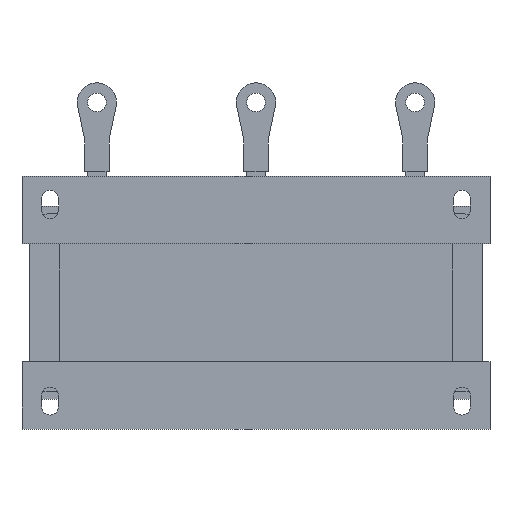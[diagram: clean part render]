
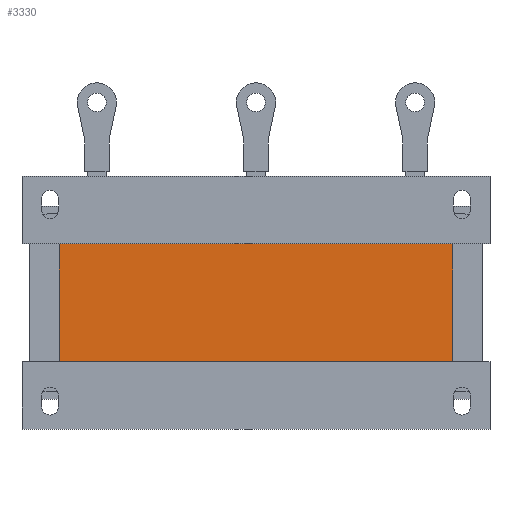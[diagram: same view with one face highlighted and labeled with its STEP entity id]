
A CAD part, front view. The second image highlights one B-rep face of the part: STEP entity #3330.
In plain terms, the highlighted planar face has unit normal (0, -1, 0).
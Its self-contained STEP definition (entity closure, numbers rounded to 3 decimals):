
#184=FACE_OUTER_BOUND('',#380,.T.);
#380=EDGE_LOOP('',(#2297,#2298,#2299,#2300));
#633=LINE('',#4901,#1047);
#634=LINE('',#4903,#1048);
#635=LINE('',#4905,#1049);
#636=LINE('',#4906,#1050);
#1047=VECTOR('',#3954,10.);
#1048=VECTOR('',#3955,10.);
#1049=VECTOR('',#3956,10.);
#1050=VECTOR('',#3957,10.);
#1455=VERTEX_POINT('',#4899);
#1456=VERTEX_POINT('',#4900);
#1457=VERTEX_POINT('',#4902);
#1458=VERTEX_POINT('',#4904);
#1789=EDGE_CURVE('',#1455,#1456,#633,.T.);
#1790=EDGE_CURVE('',#1457,#1455,#634,.T.);
#1791=EDGE_CURVE('',#1458,#1457,#635,.T.);
#1792=EDGE_CURVE('',#1456,#1458,#636,.T.);
#2297=ORIENTED_EDGE('',*,*,#1789,.F.);
#2298=ORIENTED_EDGE('',*,*,#1790,.F.);
#2299=ORIENTED_EDGE('',*,*,#1791,.F.);
#2300=ORIENTED_EDGE('',*,*,#1792,.F.);
#3158=PLANE('',#3583);
#3330=ADVANCED_FACE('',(#184),#3158,.F.);
#3583=AXIS2_PLACEMENT_3D('',#4898,#3952,#3953);
#3952=DIRECTION('center_axis',(0.,1.,0.));
#3953=DIRECTION('ref_axis',(0.,0.,1.));
#3954=DIRECTION('',(1.,0.,0.));
#3955=DIRECTION('',(0.,0.,1.));
#3956=DIRECTION('',(-1.,0.,0.));
#3957=DIRECTION('',(0.,0.,-1.));
#4898=CARTESIAN_POINT('Origin',(0.,2.,0.));
#4899=CARTESIAN_POINT('',(-105.,2.,31.5));
#4900=CARTESIAN_POINT('',(105.,2.,31.5));
#4901=CARTESIAN_POINT('',(105.,2.,31.5));
#4902=CARTESIAN_POINT('',(-105.,2.,-31.5));
#4903=CARTESIAN_POINT('',(-105.,2.,-15.75));
#4904=CARTESIAN_POINT('',(105.,2.,-31.5));
#4905=CARTESIAN_POINT('',(-105.,2.,-31.5));
#4906=CARTESIAN_POINT('',(105.,2.,15.75));
